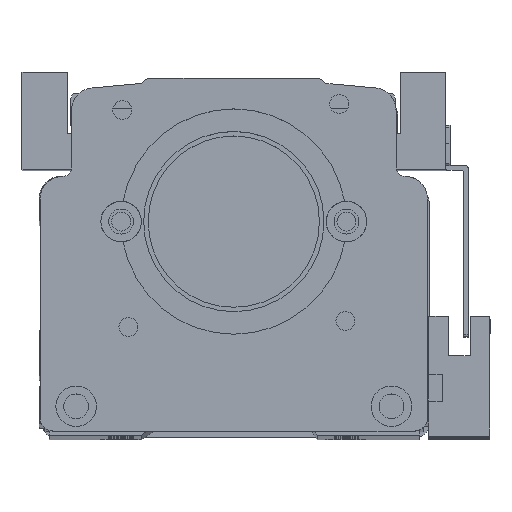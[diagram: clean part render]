
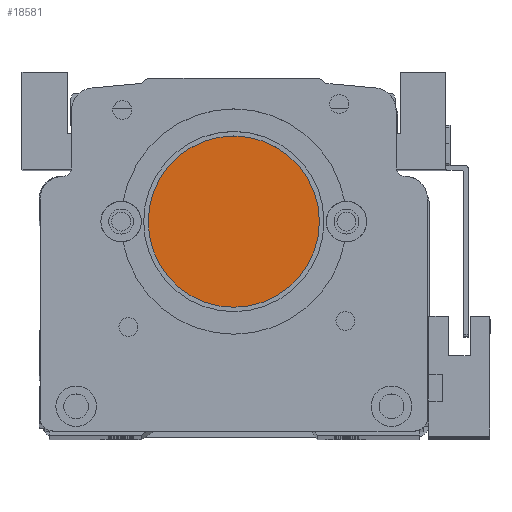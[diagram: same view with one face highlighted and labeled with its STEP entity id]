
A CAD part, top view. The second image highlights one B-rep face of the part: STEP entity #18581.
In plain terms, the highlighted planar face has unit normal (0, 0, 1) as drawn and (0, 0, -1) by its records, which use the part's own axes.
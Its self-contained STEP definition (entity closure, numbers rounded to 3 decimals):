
#1000 = CARTESIAN_POINT ( 'NONE',  ( 30., 39., 5. ) ) ;
#2720 = DIRECTION ( 'NONE',  ( 0., 0., -1. ) ) ;
#4022 = FACE_OUTER_BOUND ( 'NONE', #6694, .T. ) ;
#4627 = VERTEX_POINT ( 'NONE', #13962 ) ;
#4829 = ORIENTED_EDGE ( 'NONE', *, *, #12110, .T. ) ;
#6693 = CARTESIAN_POINT ( 'NONE',  ( 30., 39., 5. ) ) ;
#6694 = EDGE_LOOP ( 'NONE', ( #4829, #16646 ) ) ;
#7456 = CARTESIAN_POINT ( 'NONE',  ( 49., 39., 5. ) ) ;
#8398 = DIRECTION ( 'NONE',  ( -1., 0., 0. ) ) ;
#8548 = CARTESIAN_POINT ( 'NONE',  ( 30., 39., 5. ) ) ;
#9161 = VERTEX_POINT ( 'NONE', #7456 ) ;
#10214 = DIRECTION ( 'NONE',  ( -1., 0., 0. ) ) ;
#10478 = AXIS2_PLACEMENT_3D ( 'NONE', #6693, #18451, #8398 ) ;
#11140 = PLANE ( 'NONE',  #11301 ) ;
#11301 = AXIS2_PLACEMENT_3D ( 'NONE', #1000, #2720, #14393 ) ;
#12025 = EDGE_CURVE ( 'NONE', #9161, #4627, #12909, .T. ) ;
#12110 = EDGE_CURVE ( 'NONE', #4627, #9161, #12582, .T. ) ;
#12582 = CIRCLE ( 'NONE', #17226, 19. ) ;
#12909 = CIRCLE ( 'NONE', #10478, 19. ) ;
#13962 = CARTESIAN_POINT ( 'NONE',  ( 11., 39., 5. ) ) ;
#14393 = DIRECTION ( 'NONE',  ( -1., 0., 0. ) ) ;
#16646 = ORIENTED_EDGE ( 'NONE', *, *, #12025, .T. ) ;
#17226 = AXIS2_PLACEMENT_3D ( 'NONE', #8548, #20355, #10214 ) ;
#18451 = DIRECTION ( 'NONE',  ( 0., 0., -1. ) ) ;
#18581 = ADVANCED_FACE ( 'NONE', ( #4022 ), #11140, .T. ) ;
#20355 = DIRECTION ( 'NONE',  ( 0., 0., -1. ) ) ;
